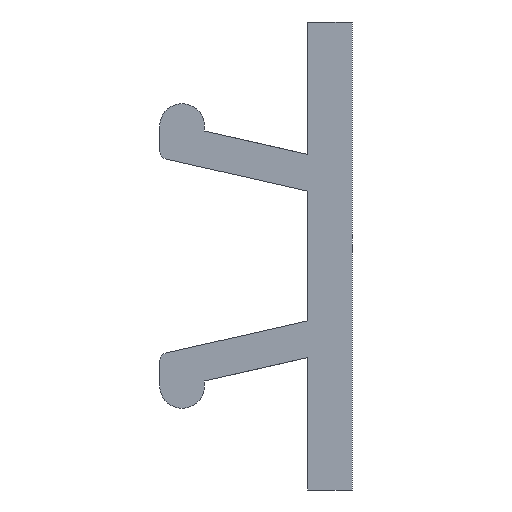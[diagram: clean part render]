
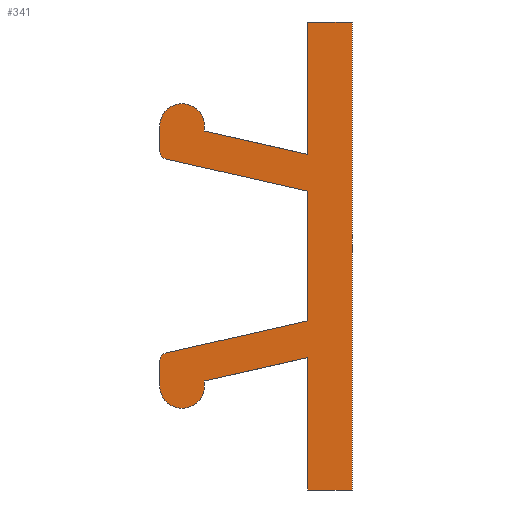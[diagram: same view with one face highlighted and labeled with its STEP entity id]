
A CAD part, left-side view. The second image highlights one B-rep face of the part: STEP entity #341.
In plain terms, the highlighted planar face has unit normal (-1, 0, 0).
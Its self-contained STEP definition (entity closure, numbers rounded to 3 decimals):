
#186=CARTESIAN_POINT('',(-79.9,4.225,0.));
#187=DIRECTION('',(0.,1.,0.));
#188=DIRECTION('',(-1.,0.,0.));
#189=AXIS2_PLACEMENT_3D('',#186,#188,#187);
#190=PLANE('',#189);
#191=CARTESIAN_POINT('',(-79.9,3.3,-2.9));
#192=VERTEX_POINT('',#191);
#193=CARTESIAN_POINT('',(-79.9,2.3,-2.9));
#194=VERTEX_POINT('',#193);
#195=CARTESIAN_POINT('',(-79.9,2.8,-2.9));
#196=DIRECTION('',(0.,1.,0.));
#197=DIRECTION('',(-1.,0.,0.));
#198=AXIS2_PLACEMENT_3D('',#195,#197,#196);
#199=CIRCLE('',#198,0.5);
#200=EDGE_CURVE('',#192,#194,#199,.T.);
#201=ORIENTED_EDGE('E19',*,*,#200,.T.);
#202=CARTESIAN_POINT('',(-79.9,2.3,-2.791));
#203=VERTEX_POINT('',#202);
#204=CARTESIAN_POINT('',(-79.9,2.3,-2.9));
#205=DIRECTION('',(0.,0.,1.));
#206=VECTOR('',#205,0.109);
#207=LINE('',#204,#206);
#208=EDGE_CURVE('',#194,#203,#207,.T.);
#209=ORIENTED_EDGE('E20',*,*,#208,.T.);
#210=CARTESIAN_POINT('',(-79.9,0.,-2.268));
#211=VERTEX_POINT('',#210);
#212=CARTESIAN_POINT('',(-79.9,2.3,-2.791));
#213=DIRECTION('',(0.,-0.975,0.222));
#214=VECTOR('',#213,2.359);
#215=LINE('',#212,#214);
#216=EDGE_CURVE('',#203,#211,#215,.T.);
#217=ORIENTED_EDGE('E21',*,*,#216,.T.);
#218=CARTESIAN_POINT('',(-79.9,0.,-5.225));
#219=VERTEX_POINT('',#218);
#220=CARTESIAN_POINT('',(-79.9,0.,-2.268));
#221=DIRECTION('',(0.,0.,-1.));
#222=VECTOR('',#221,2.957);
#223=LINE('',#220,#222);
#224=EDGE_CURVE('',#211,#219,#223,.T.);
#225=ORIENTED_EDGE('E22',*,*,#224,.T.);
#226=CARTESIAN_POINT('',(-79.9,-1.,-5.225));
#227=VERTEX_POINT('',#226);
#228=CARTESIAN_POINT('',(-79.9,0.,-5.225));
#229=DIRECTION('',(0.,-1.,0.));
#230=VECTOR('',#229,1.);
#231=LINE('',#228,#230);
#232=EDGE_CURVE('',#219,#227,#231,.T.);
#233=ORIENTED_EDGE('E23',*,*,#232,.T.);
#234=CARTESIAN_POINT('',(-79.9,-1.,5.225));
#235=VERTEX_POINT('',#234);
#236=CARTESIAN_POINT('',(-79.9,-1.,-5.225));
#237=DIRECTION('',(0.,0.,1.));
#238=VECTOR('',#237,10.45);
#239=LINE('',#236,#238);
#240=EDGE_CURVE('',#227,#235,#239,.T.);
#241=ORIENTED_EDGE('E24',*,*,#240,.T.);
#242=CARTESIAN_POINT('',(-79.9,0.,5.225));
#243=VERTEX_POINT('',#242);
#244=CARTESIAN_POINT('',(-79.9,-1.,5.225));
#245=DIRECTION('',(0.,1.,0.));
#246=VECTOR('',#245,1.);
#247=LINE('',#244,#246);
#248=EDGE_CURVE('',#235,#243,#247,.T.);
#249=ORIENTED_EDGE('E25',*,*,#248,.T.);
#250=CARTESIAN_POINT('',(-79.9,0.,2.268));
#251=VERTEX_POINT('',#250);
#252=CARTESIAN_POINT('',(-79.9,0.,5.225));
#253=DIRECTION('',(0.,0.,-1.));
#254=VECTOR('',#253,2.957);
#255=LINE('',#252,#254);
#256=EDGE_CURVE('',#243,#251,#255,.T.);
#257=ORIENTED_EDGE('E26',*,*,#256,.T.);
#258=CARTESIAN_POINT('',(-79.9,2.3,2.791));
#259=VERTEX_POINT('',#258);
#260=CARTESIAN_POINT('',(-79.9,0.,2.268));
#261=DIRECTION('',(0.,0.975,0.222));
#262=VECTOR('',#261,2.359);
#263=LINE('',#260,#262);
#264=EDGE_CURVE('',#251,#259,#263,.T.);
#265=ORIENTED_EDGE('E27',*,*,#264,.T.);
#266=CARTESIAN_POINT('',(-79.9,2.3,2.9));
#267=VERTEX_POINT('',#266);
#268=CARTESIAN_POINT('',(-79.9,2.3,2.791));
#269=DIRECTION('',(0.,0.,1.));
#270=VECTOR('',#269,0.109);
#271=LINE('',#268,#270);
#272=EDGE_CURVE('',#259,#267,#271,.T.);
#273=ORIENTED_EDGE('E28',*,*,#272,.T.);
#274=CARTESIAN_POINT('',(-79.9,3.3,2.9));
#275=VERTEX_POINT('',#274);
#276=CARTESIAN_POINT('',(-79.9,2.8,2.9));
#277=DIRECTION('',(0.,-1.,0.));
#278=DIRECTION('',(-1.,0.,0.));
#279=AXIS2_PLACEMENT_3D('',#276,#278,#277);
#280=CIRCLE('',#279,0.5);
#281=EDGE_CURVE('',#267,#275,#280,.T.);
#282=ORIENTED_EDGE('E29',*,*,#281,.T.);
#283=CARTESIAN_POINT('',(-79.9,3.3,2.357));
#284=VERTEX_POINT('',#283);
#285=CARTESIAN_POINT('',(-79.9,3.3,2.9));
#286=DIRECTION('',(0.,0.,-1.));
#287=VECTOR('',#286,0.543);
#288=LINE('',#285,#287);
#289=EDGE_CURVE('',#275,#284,#288,.T.);
#290=ORIENTED_EDGE('E30',*,*,#289,.T.);
#291=CARTESIAN_POINT('',(-79.9,3.144,2.162));
#292=VERTEX_POINT('',#291);
#293=CARTESIAN_POINT('',(-79.9,3.1,2.357));
#294=DIRECTION('',(0.,1.,0.));
#295=DIRECTION('',(-1.,0.,0.));
#296=AXIS2_PLACEMENT_3D('',#293,#295,#294);
#297=CIRCLE('',#296,0.2);
#298=EDGE_CURVE('',#284,#292,#297,.T.);
#299=ORIENTED_EDGE('E31',*,*,#298,.T.);
#300=CARTESIAN_POINT('',(-79.9,0.,1.448));
#301=VERTEX_POINT('',#300);
#302=CARTESIAN_POINT('',(-79.9,3.144,2.162));
#303=DIRECTION('',(0.,-0.975,-0.222));
#304=VECTOR('',#303,3.225);
#305=LINE('',#302,#304);
#306=EDGE_CURVE('',#292,#301,#305,.T.);
#307=ORIENTED_EDGE('E32',*,*,#306,.T.);
#308=CARTESIAN_POINT('',(-79.9,0.,-1.448));
#309=VERTEX_POINT('',#308);
#310=CARTESIAN_POINT('',(-79.9,0.,1.448));
#311=DIRECTION('',(0.,0.,-1.));
#312=VECTOR('',#311,2.895);
#313=LINE('',#310,#312);
#314=EDGE_CURVE('',#301,#309,#313,.T.);
#315=ORIENTED_EDGE('E33',*,*,#314,.T.);
#316=CARTESIAN_POINT('',(-79.9,3.144,-2.162));
#317=VERTEX_POINT('',#316);
#318=CARTESIAN_POINT('',(-79.9,0.,-1.448));
#319=DIRECTION('',(0.,0.975,-0.222));
#320=VECTOR('',#319,3.225);
#321=LINE('',#318,#320);
#322=EDGE_CURVE('',#309,#317,#321,.T.);
#323=ORIENTED_EDGE('E34',*,*,#322,.T.);
#324=CARTESIAN_POINT('',(-79.9,3.3,-2.357));
#325=VERTEX_POINT('',#324);
#326=CARTESIAN_POINT('',(-79.9,3.1,-2.357));
#327=DIRECTION('',(0.,0.222,0.975));
#328=DIRECTION('',(-1.,0.,-0.));
#329=AXIS2_PLACEMENT_3D('',#326,#328,#327);
#330=CIRCLE('',#329,0.2);
#331=EDGE_CURVE('',#317,#325,#330,.T.);
#332=ORIENTED_EDGE('E35',*,*,#331,.T.);
#333=CARTESIAN_POINT('',(-79.9,3.3,-2.357));
#334=DIRECTION('',(0.,0.,-1.));
#335=VECTOR('',#334,0.543);
#336=LINE('',#333,#335);
#337=EDGE_CURVE('',#325,#192,#336,.T.);
#338=ORIENTED_EDGE('E36',*,*,#337,.T.);
#339=EDGE_LOOP('',(#201,#209,#217,#225,#233,#241,#249,#257,#265,#273,#282,#290,#299,#307,#315,#323,#332,#338));
#340=FACE_OUTER_BOUND('',#339,.T.);
#341=ADVANCED_FACE('F2',(#340),#190,.T.);
